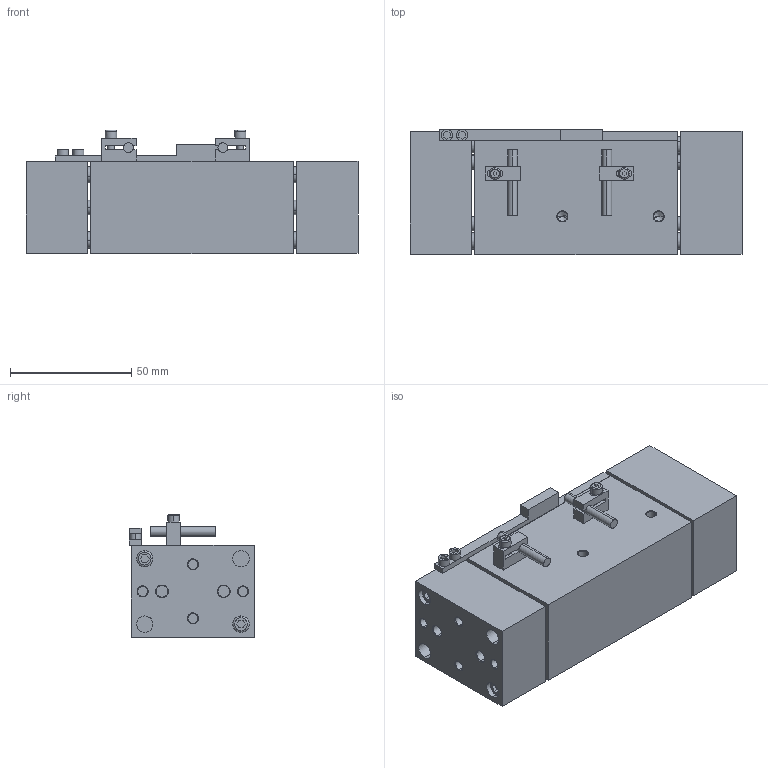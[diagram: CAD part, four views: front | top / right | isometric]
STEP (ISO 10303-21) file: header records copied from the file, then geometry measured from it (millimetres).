
FILE_DESCRIPTION (( 'STEP AP203' ), '1' );
FILE_NAME ('AGW-375-2 CLOSED in IN.STEP', '2014-11-03T16:18:58', ( 'setup' ), ( '' ), 'SwSTEP 2.0', 'SolidWorks 2013', '' );
FILE_SCHEMA (( 'CONFIG_CONTROL_DESIGN' ));
Length unit declared in the file: inch
Products named in the file (8): AGW-375-2 SENSOR BLOCK; AGW-375-2 SENSOR; AGW-375-2 PROD; AGW-375-2 GUIDE ROD; AGW-375-2  SENSOR FLAG; AGW-375-2 CLOSED in IN; AGW-375-2 BODY; AGW-375-2 TOOL PLATE
Assembly tree (16 placements, depth 2):
  AGW-375-2 CLOSED in IN
    AGW-375-2 BODY
    AGW-375-2 TOOL PLATE  x2
    AGW-375-2 SENSOR BLOCK  x2
    AGW-375-2 SENSOR  x2
    AGW-375-2 PROD  x4
    AGW-375-2 GUIDE ROD  x4
    AGW-375-2  SENSOR FLAG
Bounding box: 136.65 x 51.51 x 50.8 mm (x, y, z)
Volume: 245766.3 mm3; surface area: 67583.2 mm2
Topology: 20 solids, 20 shells, 396 faces, 948 edges, 590 vertices
Faces by surface type: plane 158, cylinder 142, cone 84, torus 12
Entity records: 8804 total; most frequent: CARTESIAN_POINT 1465, DIRECTION 1388, ORIENTED_EDGE 1216, EDGE_CURVE 608, AXIS2_PLACEMENT_3D 523, VERTEX_POINT 384, VECTOR 342, LINE 342
